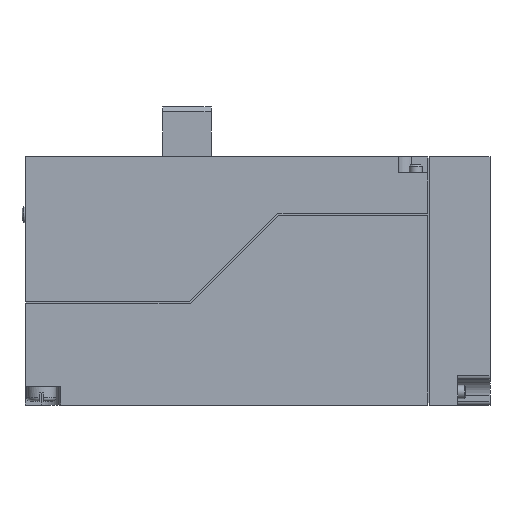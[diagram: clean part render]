
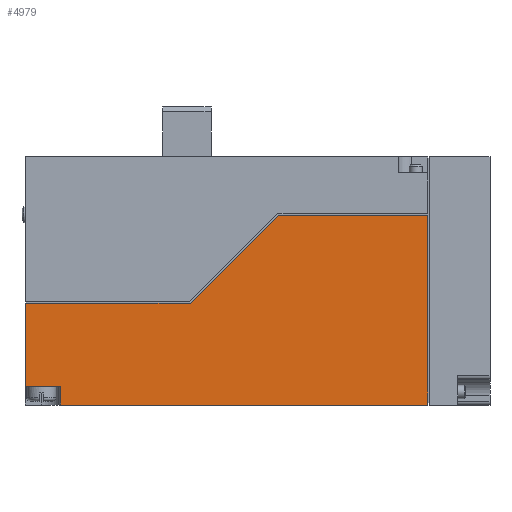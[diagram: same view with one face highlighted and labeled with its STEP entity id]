
A CAD part, front view. The second image highlights one B-rep face of the part: STEP entity #4979.
In plain terms, the highlighted planar face has unit normal (0, -1, 0).
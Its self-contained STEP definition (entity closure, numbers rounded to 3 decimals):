
#247 = DIRECTION ( 'NONE',  ( 0.709, 0., 0.706 ) ) ;
#249 = LINE ( 'NONE', #3083, #4128 ) ;
#379 = VERTEX_POINT ( 'NONE', #500 ) ;
#500 = CARTESIAN_POINT ( 'NONE',  ( -14.5, -3.65, 1.154 ) ) ;
#528 = EDGE_CURVE ( 'NONE', #3043, #379, #4023, .T. ) ;
#623 = ORIENTED_EDGE ( 'NONE', *, *, #1903, .T. ) ;
#714 = VERTEX_POINT ( 'NONE', #1609 ) ;
#827 = CARTESIAN_POINT ( 'NONE',  ( -4.208, -3.65, 6.339 ) ) ;
#1198 = ORIENTED_EDGE ( 'NONE', *, *, #2278, .T. ) ;
#1421 = LINE ( 'NONE', #827, #4366 ) ;
#1609 = CARTESIAN_POINT ( 'NONE',  ( 10.625, -3.65, 11.834 ) ) ;
#1760 = DIRECTION ( 'NONE',  ( 0., 0., -1. ) ) ;
#1764 = ORIENTED_EDGE ( 'NONE', *, *, #3637, .F. ) ;
#1903 = EDGE_CURVE ( 'NONE', #4383, #379, #4744, .T. ) ;
#2148 = FACE_OUTER_BOUND ( 'NONE', #5205, .T. ) ;
#2161 = CARTESIAN_POINT ( 'NONE',  ( -12.295, -3.65, 1.154 ) ) ;
#2217 = CARTESIAN_POINT ( 'NONE',  ( -14.5, -3.65, 6.339 ) ) ;
#2278 = EDGE_CURVE ( 'NONE', #3500, #2374, #4239, .T. ) ;
#2363 = CARTESIAN_POINT ( 'NONE',  ( -14.5, -3.65, 15.5 ) ) ;
#2374 = VERTEX_POINT ( 'NONE', #5369 ) ;
#2395 = VECTOR ( 'NONE', #4161, 1000. ) ;
#2436 = EDGE_CURVE ( 'NONE', #4379, #4383, #4374, .T. ) ;
#2478 = DIRECTION ( 'NONE',  ( 1., 0., 0. ) ) ;
#2503 = VECTOR ( 'NONE', #3194, 1000. ) ;
#2730 = EDGE_CURVE ( 'NONE', #3043, #3500, #5366, .T. ) ;
#2798 = DIRECTION ( 'NONE',  ( 0., 0., 1. ) ) ;
#2843 = DIRECTION ( 'NONE',  ( -1., 0., 0. ) ) ;
#2847 = DIRECTION ( 'NONE',  ( -1., 0., 0. ) ) ;
#3043 = VERTEX_POINT ( 'NONE', #2161 ) ;
#3064 = DIRECTION ( 'NONE',  ( 1., 0., 0. ) ) ;
#3083 = CARTESIAN_POINT ( 'NONE',  ( 10.675, -3.65, 11.834 ) ) ;
#3115 = CARTESIAN_POINT ( 'NONE',  ( -12.295, -3.65, 0. ) ) ;
#3159 = EDGE_CURVE ( 'NONE', #2374, #714, #3976, .T. ) ;
#3194 = DIRECTION ( 'NONE',  ( -1., 0., 0. ) ) ;
#3202 = AXIS2_PLACEMENT_3D ( 'NONE', #4011, #3428, #2843 ) ;
#3213 = ORIENTED_EDGE ( 'NONE', *, *, #528, .F. ) ;
#3390 = CARTESIAN_POINT ( 'NONE',  ( 10.625, -3.65, 15.5 ) ) ;
#3428 = DIRECTION ( 'NONE',  ( 0., 1., 0. ) ) ;
#3434 = CARTESIAN_POINT ( 'NONE',  ( -12.295, -3.65, 1.154 ) ) ;
#3500 = VERTEX_POINT ( 'NONE', #3115 ) ;
#3621 = VECTOR ( 'NONE', #3064, 1000. ) ;
#3637 = EDGE_CURVE ( 'NONE', #4379, #5705, #1421, .T. ) ;
#3650 = CARTESIAN_POINT ( 'NONE',  ( 14.5, -3.65, 0. ) ) ;
#3795 = CARTESIAN_POINT ( 'NONE',  ( -14.45, -3.65, 6.339 ) ) ;
#3872 = CARTESIAN_POINT ( 'NONE',  ( 1.311, -3.65, 11.834 ) ) ;
#3976 = LINE ( 'NONE', #3390, #5397 ) ;
#4011 = CARTESIAN_POINT ( 'NONE',  ( 14.5, -3.65, 15.5 ) ) ;
#4023 = LINE ( 'NONE', #3434, #5252 ) ;
#4128 = VECTOR ( 'NONE', #2478, 1000. ) ;
#4161 = DIRECTION ( 'NONE',  ( 0., 0., -1. ) ) ;
#4239 = LINE ( 'NONE', #3650, #3621 ) ;
#4332 = ORIENTED_EDGE ( 'NONE', *, *, #2436, .T. ) ;
#4366 = VECTOR ( 'NONE', #247, 1000. ) ;
#4374 = LINE ( 'NONE', #3795, #2503 ) ;
#4379 = VERTEX_POINT ( 'NONE', #4597 ) ;
#4383 = VERTEX_POINT ( 'NONE', #2217 ) ;
#4597 = CARTESIAN_POINT ( 'NONE',  ( -4.208, -3.65, 6.339 ) ) ;
#4618 = PLANE ( 'NONE',  #3202 ) ;
#4744 = LINE ( 'NONE', #2363, #4907 ) ;
#4768 = CARTESIAN_POINT ( 'NONE',  ( -12.295, -3.65, 1.154 ) ) ;
#4824 = ORIENTED_EDGE ( 'NONE', *, *, #3159, .T. ) ;
#4907 = VECTOR ( 'NONE', #1760, 1000. ) ;
#4979 = ADVANCED_FACE ( 'NONE', ( #2148 ), #4618, .F. ) ;
#5076 = EDGE_CURVE ( 'NONE', #5705, #714, #249, .T. ) ;
#5205 = EDGE_LOOP ( 'NONE', ( #3213, #5374, #1198, #4824, #5657, #1764, #4332, #623 ) ) ;
#5252 = VECTOR ( 'NONE', #2847, 1000. ) ;
#5366 = LINE ( 'NONE', #4768, #2395 ) ;
#5369 = CARTESIAN_POINT ( 'NONE',  ( 10.625, -3.65, 0. ) ) ;
#5374 = ORIENTED_EDGE ( 'NONE', *, *, #2730, .T. ) ;
#5397 = VECTOR ( 'NONE', #2798, 1000. ) ;
#5657 = ORIENTED_EDGE ( 'NONE', *, *, #5076, .F. ) ;
#5705 = VERTEX_POINT ( 'NONE', #3872 ) ;
